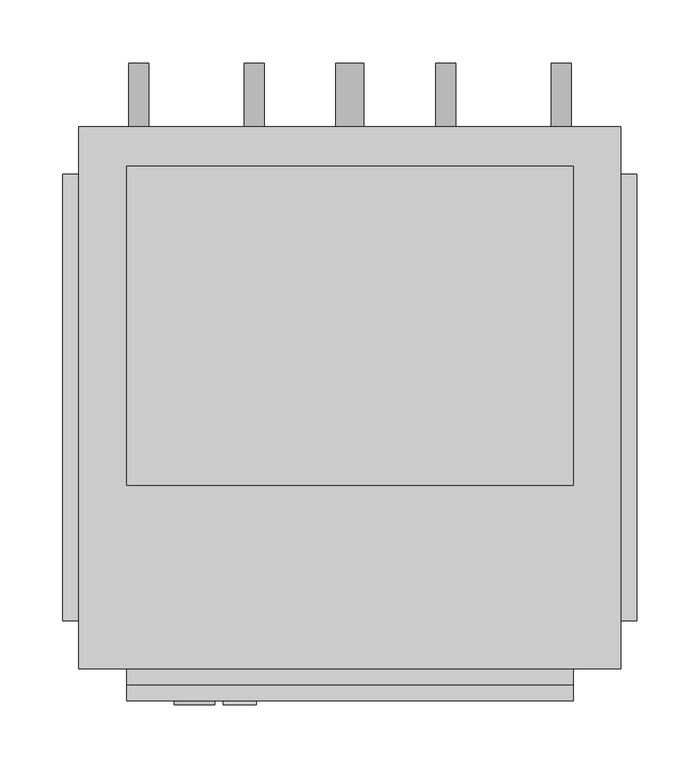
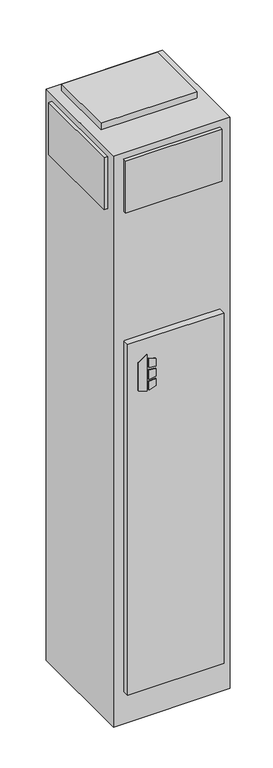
"""IFC4 building model written with IfcOpenShell, lengths in millimetres: proxy geometry, Concealed_Modular_Fan_Coil_Unit_-_MPY_-_IEC_-_4-Pipe_-_NoRisers_2022 : Size 03 - 277v/60Hz/1Ph - 4/1 Coil."""

from ifc_helpers import new_model, si_unit, point, frame, frame_2d, origin, origin_with_axes, place, context, project, spatial, polyline, circle_curve, trimmed, segment, composite_curve, outline, extrude, source, transform, mapped, element, save


def mechanical_equipment_ebc7d561(model_context):
    return source(origin(), model_context, "Body", "SweptSolid", [
        extrude(outline(polyline([(1305.3480703, 228.6), (1295.4, 260.7733866), (1437.5709244, 260.7733866), (1414.5489183, 228.6), (1305.3480703, 228.6)])), frame((0.0, -215.9, 0.0), z_axis=(0.0, 1.0, 0.0), x_axis=(0.0, 0.0, 1.0)), (0.0, 0.0, 1.0), 3.175),
        extrude(outline(polyline([(1384.3473557, 267.5317195), (1381.1449632, 293.6131138), (1410.3738042, 293.6131138), (1418.4382193, 267.5317195), (1384.3473557, 267.5317195)])), frame((0.0, -215.9, 0.0), z_axis=(0.0, 1.0, 0.0), x_axis=(0.0, 0.0, 1.0)), (0.0, 0.0, 1.0), 3.175),
        extrude(outline(polyline([(1332.4838288, 293.6131138), (1328.8183279, 267.5317195), (1295.4, 267.5317195), (1304.0342372, 293.6131138), (1332.4838288, 293.6131138)])), frame((0.0, -215.9, 0.0), z_axis=(0.0, 1.0, 0.0), x_axis=(0.0, 0.0, 1.0)), (0.0, 0.0, 1.0), 3.175),
        extrude(outline(polyline([(1371.7989903, 293.6131138), (1374.0808166, 267.5317195), (1338.1432681, 267.5317195), (1340.8845331, 293.6131138), (1371.7989903, 293.6131138)])), frame((0.0, -215.9, 0.0), z_axis=(0.0, 1.0, 0.0), x_axis=(0.0, 0.0, 1.0)), (0.0, 0.0, 1.0), 3.175),
        extrude(outline(composite_curve([segment(trimmed(circle_curve(frame_2d((990.6, 536.575)), 7.9375), [point((990.6, 528.6375))], [point((990.6, 544.5125))], False, "CARTESIAN"), True, "CONTINUOUS"), segment(trimmed(circle_curve(frame_2d((990.6, 536.575)), 7.9375), [point((990.6, 544.5125))], [point((990.6, 528.6375))], False, "CARTESIAN"), True, "CONTINUOUS")], self_intersect=False)), frame((0.0, 244.475, 0.0), z_axis=(0.0, 1.0, 0.0), x_axis=(0.0, 0.0, 1.0)), (0.0, 0.0, 1.0), 50.8),
        extrude(outline(composite_curve([segment(trimmed(circle_curve(frame_2d((990.6, 444.5)), 7.9375), [point((990.6, 436.5625))], [point((990.6, 452.4375))], False, "CARTESIAN"), True, "CONTINUOUS"), segment(trimmed(circle_curve(frame_2d((990.6, 444.5)), 7.9375), [point((990.6, 452.4375))], [point((990.6, 436.5625))], False, "CARTESIAN"), True, "CONTINUOUS")], self_intersect=False)), frame((0.0, 244.475, 0.0), z_axis=(0.0, 1.0, 0.0), x_axis=(0.0, 0.0, 1.0)), (0.0, 0.0, 1.0), 50.8),
        extrude(outline(composite_curve([segment(trimmed(circle_curve(frame_2d((990.6, 292.1)), 7.9375), [point((990.6, 284.1625))], [point((990.6, 300.0375))], False, "CARTESIAN"), True, "CONTINUOUS"), segment(trimmed(circle_curve(frame_2d((990.6, 292.1)), 7.9375), [point((990.6, 300.0375))], [point((990.6, 284.1625))], False, "CARTESIAN"), True, "CONTINUOUS")], self_intersect=False)), frame((0.0, 244.475, 0.0), z_axis=(0.0, 1.0, 0.0), x_axis=(0.0, 0.0, 1.0)), (0.0, 0.0, 1.0), 50.8),
        extrude(outline(composite_curve([segment(trimmed(circle_curve(frame_2d((990.6, 200.025)), 7.9375), [point((990.6, 192.0875))], [point((990.6, 207.9625))], False, "CARTESIAN"), True, "CONTINUOUS"), segment(trimmed(circle_curve(frame_2d((990.6, 200.025)), 7.9375), [point((990.6, 207.9625))], [point((990.6, 192.0875))], False, "CARTESIAN"), True, "CONTINUOUS")], self_intersect=False)), frame((0.0, 244.475, 0.0), z_axis=(0.0, 1.0, 0.0), x_axis=(0.0, 0.0, 1.0)), (0.0, 0.0, 1.0), 50.8),
        extrude(outline(composite_curve([segment(trimmed(circle_curve(frame_2d((76.2, 368.3)), 11.1125), [point((76.2, 357.1875))], [point((76.2, 379.4125))], False, "CARTESIAN"), True, "CONTINUOUS"), segment(trimmed(circle_curve(frame_2d((76.2, 368.3)), 11.1125), [point((76.2, 379.4125))], [point((76.2, 357.1875))], False, "CARTESIAN"), True, "CONTINUOUS")], self_intersect=False)), frame((0.0, 244.475, 0.0), z_axis=(0.0, 1.0, 0.0), x_axis=(0.0, 0.0, 1.0)), (0.0, 0.0, 1.0), 50.8),
        extrude(outline(polyline([(546.1, 212.725), (546.1, -41.275), (190.5, -41.275), (190.5, 212.725), (546.1, 212.725)])), frame((0.0, 0.0, 2235.2), z_axis=(0.0, 0.0, 1.0), x_axis=(1.0, 0.0, 0.0)), (0.0, 0.0, 1.0), 25.4),
        extrude(outline(polyline([(139.7, -149.225), (139.7, 206.375), (152.4, 206.375), (152.4, -149.225), (139.7, -149.225)])), frame((0.0, 0.0, 2006.6), z_axis=(0.0, 0.0, 1.0), x_axis=(1.0, 0.0, 0.0)), (0.0, 0.0, 1.0), 203.2),
        extrude(outline(polyline([(596.9, 206.375), (596.9, -149.225), (584.2, -149.225), (584.2, 206.375), (596.9, 206.375)])), frame((0.0, 0.0, 2006.6), z_axis=(0.0, 0.0, 1.0), x_axis=(1.0, 0.0, 0.0)), (0.0, 0.0, 1.0), 203.2),
        extrude(outline(polyline([(546.1, -200.025), (190.5, -200.025), (190.5, -187.325), (546.1, -187.325), (546.1, -200.025)])), frame((0.0, 0.0, 2006.6), z_axis=(0.0, 0.0, 1.0), x_axis=(1.0, 0.0, 0.0)), (0.0, 0.0, 1.0), 203.2),
        extrude(outline(polyline([(546.1, -212.725), (190.5, -212.725), (190.5, -187.325), (546.1, -187.325), (546.1, -212.725)])), frame((0.0, 0.0, 127.0), z_axis=(0.0, 0.0, 1.0), x_axis=(1.0, 0.0, 0.0)), (0.0, 0.0, 1.0), 1371.6),
        extrude(outline(polyline([(584.2, 244.475), (584.2, -187.325), (152.4, -187.325), (152.4, 244.475), (584.2, 244.475)])), origin_with_axes(), (0.0, 0.0, 1.0), 2235.2),
    ])


if __name__ == "__main__":
    model = new_model("IFC4")
    model_context = context("Model", 3, world=origin())
    ifc_project = project(units=[si_unit("LENGTHUNIT", "METRE", prefix="MILLI")], contexts=[model_context])
    site = spatial("IfcSite", under=ifc_project)
    building = spatial("IfcBuilding", under=site)
    placement = place(None, origin())
    mechanical_equipment_shape = mechanical_equipment_ebc7d561(model_context)
    element("IfcBuildingElementProxy", 1, Name="Concealed_Modular_Fan_Coil_Unit_-_MPY_-_IEC_-_4-Pipe_-_NoRisers_2022 : Size 03 - 277v/60Hz/1Ph - 4/1 Coil", ObjectType="Concealed_Modular_Fan_Coil_Unit_-_MPY_-_IEC_-_4-Pipe_-_NoRisers_2022 : Size 03 - 277v/60Hz/1Ph - 4/1 Coil", at=placement, inside=building, context=model_context, shape_type="MappedRepresentation", body=[
        mapped(mechanical_equipment_shape, transform((0.0, 0.0, 0.0), x_axis=(1.0, 0.0, 0.0), y_axis=(0.0, 1.0, 0.0), z_axis=(0.0, 0.0, 1.0))),
    ])
    save(model, "model.ifc")
